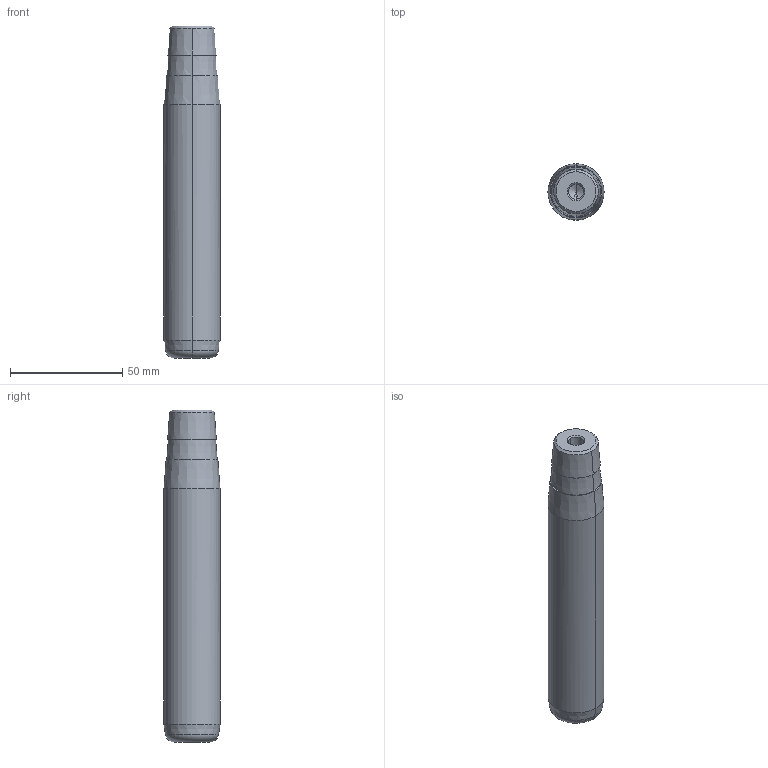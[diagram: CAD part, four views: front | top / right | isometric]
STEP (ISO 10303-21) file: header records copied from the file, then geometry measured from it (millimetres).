
FILE_DESCRIPTION(('CATIA V5 STEP Exchange'),'2;1');
FILE_NAME('C:\Users\Utente\Desktop\IO LAVORO\3D X SITO CF\X SITO\722\722-25x125x148.stp','2021-01-09T08:07:05+00:00',('none'),('none'),'CATIA Version 5 Release 20 GA (IN-10)','CATIA V5 STEP AP203','none');
FILE_SCHEMA(('CONFIG_CONTROL_DESIGN'));
Length unit declared in the file: millimetre
Products named in the file (1): 722-25x125x148
Bounding box: 25 x 25 x 148 mm (x, y, z)
Volume: 66709 mm3; surface area: 13010.4 mm2
Topology: 1 solids, 1 shells, 32 faces, 98 edges, 66 vertices
Faces by surface type: cone 22, cylinder 6, plane 2, torus 2
Entity records: 1166 total; most frequent: CARTESIAN_POINT 279, ORIENTED_EDGE 188, DIRECTION 148, EDGE_CURVE 94, AXIS2_PLACEMENT_3D 89, VERTEX_POINT 66, CIRCLE 56, EDGE_LOOP 34
